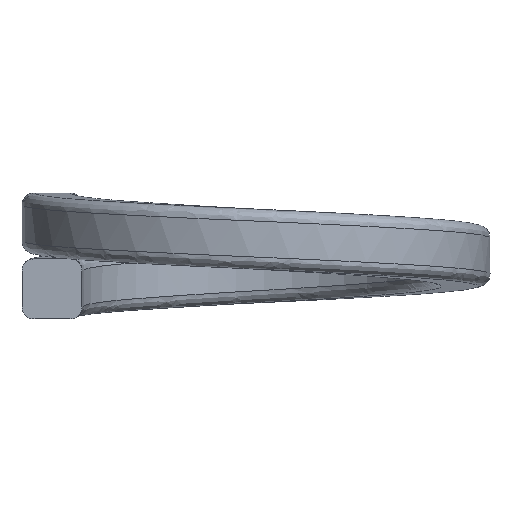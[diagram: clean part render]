
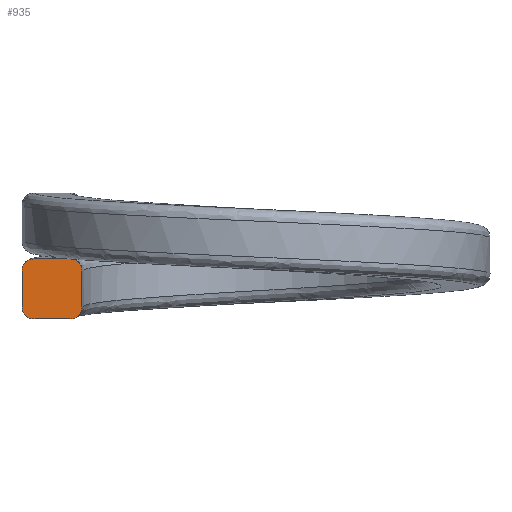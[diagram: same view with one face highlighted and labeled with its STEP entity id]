
A CAD part, top view. The second image highlights one B-rep face of the part: STEP entity #935.
In plain terms, the highlighted planar face has unit normal (0, 0, 1).
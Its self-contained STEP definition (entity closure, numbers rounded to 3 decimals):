
#13 = CARTESIAN_POINT ( 'NONE',  ( -3.903, 0.311, 0. ) ) ;
#38 = CARTESIAN_POINT ( 'NONE',  ( -2.903, 0.258, 0. ) ) ;
#81 = VERTEX_POINT ( 'NONE', #238 ) ;
#138 = EDGE_LOOP ( 'NONE', ( #225, #786, #1203, #1259, #1412, #1201, #1214, #1342 ) ) ;
#171 = EDGE_CURVE ( 'NONE', #892, #1676, #574, .T. ) ;
#179 = DIRECTION ( 'NONE',  ( 1., 0., 0. ) ) ;
#200 = CARTESIAN_POINT ( 'NONE',  ( -3.881, 0.363, 0. ) ) ;
#202 = DIRECTION ( 'NONE',  ( -1., 0., 0. ) ) ;
#225 = ORIENTED_EDGE ( 'NONE', *, *, #240, .T. ) ;
#238 = CARTESIAN_POINT ( 'NONE',  ( -3.903, 0.259, 0. ) ) ;
#240 = EDGE_CURVE ( 'NONE', #975, #1530, #1093, .T. ) ;
#269 = VERTEX_POINT ( 'NONE', #531 ) ;
#324 = CARTESIAN_POINT ( 'NONE',  ( -3.703, 0.459, 0. ) ) ;
#364 = DIRECTION ( 'NONE',  ( 0., 0., 1. ) ) ;
#387 = CARTESIAN_POINT ( 'NONE',  ( -3.807, 0.437, 0. ) ) ;
#389 = CARTESIAN_POINT ( 'NONE',  ( -3.403, 0.459, 0. ) ) ;
#506 = B_SPLINE_CURVE_WITH_KNOTS ( 'NONE', 3,
 ( #38, #1675, #1486, #1300, #1115, #930 ),
 .UNSPECIFIED., .F., .F.,
 ( 4, 2, 4 ),
 ( 0., 0., 0. ),
 .UNSPECIFIED. ) ;
#508 = CARTESIAN_POINT ( 'NONE',  ( -3.703, -0.541, 0. ) ) ;
#531 = CARTESIAN_POINT ( 'NONE',  ( -3.903, -0.341, 0. ) ) ;
#548 = CARTESIAN_POINT ( 'NONE',  ( -3.903, -0.041, 0. ) ) ;
#553 = CARTESIAN_POINT ( 'NONE',  ( -2.903, 0.258, 0. ) ) ;
#572 = CARTESIAN_POINT ( 'NONE',  ( -3.755, 0.459, 0. ) ) ;
#574 = LINE ( 'NONE', #389, #1366 ) ;
#674 = CARTESIAN_POINT ( 'NONE',  ( -3.703, -0.541, 0. ) ) ;
#716 = VECTOR ( 'NONE', #907, 1000. ) ;
#721 = DIRECTION ( 'NONE',  ( 1., 0., 0. ) ) ;
#735 = EDGE_CURVE ( 'NONE', #81, #269, #1698, .T. ) ;
#739 = CARTESIAN_POINT ( 'NONE',  ( -3.103, 0.459, 0. ) ) ;
#786 = ORIENTED_EDGE ( 'NONE', *, *, #942, .T. ) ;
#803 = B_SPLINE_CURVE_WITH_KNOTS ( 'NONE', 3,
 ( #1816, #1627, #1442, #1254, #1069, #886 ),
 .UNSPECIFIED., .F., .F.,
 ( 4, 2, 4 ),
 ( 0., 0., 0. ),
 .UNSPECIFIED. ) ;
#821 = FACE_OUTER_BOUND ( 'NONE', #138, .T. ) ;
#824 = VECTOR ( 'NONE', #1323, 1000. ) ;
#862 = CARTESIAN_POINT ( 'NONE',  ( -3.756, -0.541, 0. ) ) ;
#886 = CARTESIAN_POINT ( 'NONE',  ( -2.903, -0.341, 0. ) ) ;
#892 = VERTEX_POINT ( 'NONE', #739 ) ;
#899 = CARTESIAN_POINT ( 'NONE',  ( -2.903, -0.341, 0. ) ) ;
#907 = DIRECTION ( 'NONE',  ( 0., 1., 0. ) ) ;
#909 = CARTESIAN_POINT ( 'NONE',  ( -3.403, -0.541, 0. ) ) ;
#930 = CARTESIAN_POINT ( 'NONE',  ( -3.103, 0.459, 0. ) ) ;
#935 = ADVANCED_FACE ( 'NONE', ( #821 ), #1111, .T. ) ;
#942 = EDGE_CURVE ( 'NONE', #1530, #1718, #803, .T. ) ;
#949 = CARTESIAN_POINT ( 'NONE',  ( -3.703, 0.459, 0. ) ) ;
#954 = VECTOR ( 'NONE', #721, 1000. ) ;
#975 = VERTEX_POINT ( 'NONE', #508 ) ;
#1045 = CARTESIAN_POINT ( 'NONE',  ( -3.807, -0.52, 0. ) ) ;
#1065 = B_SPLINE_CURVE_WITH_KNOTS ( 'NONE', 3,
 ( #949, #572, #387, #200, #13, #1649 ),
 .UNSPECIFIED., .F., .F.,
 ( 4, 2, 4 ),
 ( 0., 0., 0. ),
 .UNSPECIFIED. ) ;
#1069 = CARTESIAN_POINT ( 'NONE',  ( -2.903, -0.394, 0. ) ) ;
#1075 = EDGE_CURVE ( 'NONE', #1676, #81, #1065, .T. ) ;
#1085 = EDGE_CURVE ( 'NONE', #1718, #1487, #1274, .T. ) ;
#1091 = CARTESIAN_POINT ( 'NONE',  ( -2.903, -0.041, 0. ) ) ;
#1093 = LINE ( 'NONE', #909, #954 ) ;
#1111 = PLANE ( 'NONE',  #1545 ) ;
#1115 = CARTESIAN_POINT ( 'NONE',  ( -3.05, 0.459, 0. ) ) ;
#1201 = ORIENTED_EDGE ( 'NONE', *, *, #1075, .T. ) ;
#1203 = ORIENTED_EDGE ( 'NONE', *, *, #1085, .T. ) ;
#1214 = ORIENTED_EDGE ( 'NONE', *, *, #735, .T. ) ;
#1216 = EDGE_CURVE ( 'NONE', #269, #975, #1753, .T. ) ;
#1232 = CARTESIAN_POINT ( 'NONE',  ( -3.881, -0.446, 0. ) ) ;
#1254 = CARTESIAN_POINT ( 'NONE',  ( -2.924, -0.446, 0. ) ) ;
#1259 = ORIENTED_EDGE ( 'NONE', *, *, #1432, .T. ) ;
#1274 = LINE ( 'NONE', #1091, #716 ) ;
#1300 = CARTESIAN_POINT ( 'NONE',  ( -2.998, 0.437, 0. ) ) ;
#1323 = DIRECTION ( 'NONE',  ( 0., -1., 0. ) ) ;
#1342 = ORIENTED_EDGE ( 'NONE', *, *, #1216, .T. ) ;
#1366 = VECTOR ( 'NONE', #202, 1000. ) ;
#1412 = ORIENTED_EDGE ( 'NONE', *, *, #171, .T. ) ;
#1416 = CARTESIAN_POINT ( 'NONE',  ( -3.903, -0.393, 0. ) ) ;
#1432 = EDGE_CURVE ( 'NONE', #1487, #892, #506, .T. ) ;
#1442 = CARTESIAN_POINT ( 'NONE',  ( -2.998, -0.52, 0. ) ) ;
#1486 = CARTESIAN_POINT ( 'NONE',  ( -2.924, 0.363, 0. ) ) ;
#1487 = VERTEX_POINT ( 'NONE', #553 ) ;
#1513 = CARTESIAN_POINT ( 'NONE',  ( -3.903, -0.041, 0. ) ) ;
#1530 = VERTEX_POINT ( 'NONE', #1644 ) ;
#1545 = AXIS2_PLACEMENT_3D ( 'NONE', #548, #364, #179 ) ;
#1605 = CARTESIAN_POINT ( 'NONE',  ( -3.903, -0.341, 0. ) ) ;
#1627 = CARTESIAN_POINT ( 'NONE',  ( -3.05, -0.541, 0. ) ) ;
#1644 = CARTESIAN_POINT ( 'NONE',  ( -3.103, -0.541, 0. ) ) ;
#1649 = CARTESIAN_POINT ( 'NONE',  ( -3.903, 0.259, 0. ) ) ;
#1675 = CARTESIAN_POINT ( 'NONE',  ( -2.903, 0.311, 0. ) ) ;
#1676 = VERTEX_POINT ( 'NONE', #324 ) ;
#1698 = LINE ( 'NONE', #1513, #824 ) ;
#1718 = VERTEX_POINT ( 'NONE', #899 ) ;
#1753 = B_SPLINE_CURVE_WITH_KNOTS ( 'NONE', 3,
 ( #1605, #1416, #1232, #1045, #862, #674 ),
 .UNSPECIFIED., .F., .F.,
 ( 4, 2, 4 ),
 ( 0., 0., 0. ),
 .UNSPECIFIED. ) ;
#1816 = CARTESIAN_POINT ( 'NONE',  ( -3.103, -0.541, 0. ) ) ;
